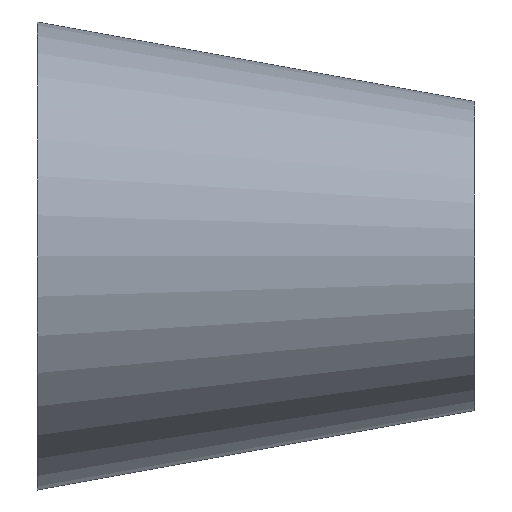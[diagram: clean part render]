
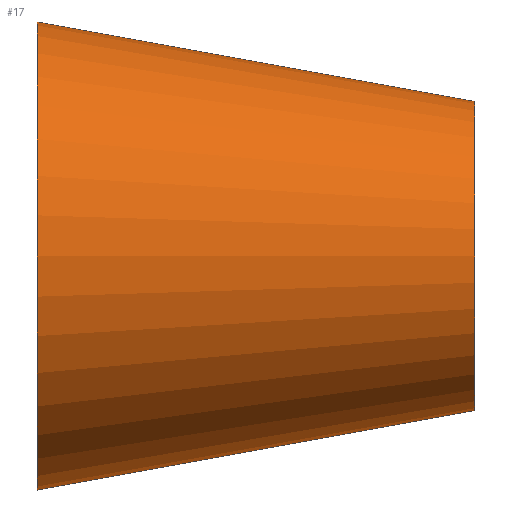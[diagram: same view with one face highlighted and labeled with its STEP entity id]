
A CAD part, front view. The second image highlights one B-rep face of the part: STEP entity #17.
In plain terms, the highlighted free-form (B-spline) face has degree [14, 1] with [15, 2] control points.
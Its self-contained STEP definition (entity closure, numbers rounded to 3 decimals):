
#17 = ADVANCED_FACE('',(#18),#31,.T.);
#18 = FACE_BOUND('',#19,.T.);
#19 = EDGE_LOOP('',(#20,#80,#102,#129));
#20 = ORIENTED_EDGE('',*,*,#21,.T.);
#21 = EDGE_CURVE('',#22,#22,#24,.T.);
#22 = VERTEX_POINT('',#23);
#23 = CARTESIAN_POINT('',(0.,26.5,0.));
#24 = SURFACE_CURVE('',#25,(#30,#68),.PCURVE_S1.);
#25 = CIRCLE('',#26,26.5);
#26 = AXIS2_PLACEMENT_3D('',#27,#28,#29);
#27 = CARTESIAN_POINT('',(0.,0.,0.));
#28 = DIRECTION('',(1.,0.,0.));
#29 = DIRECTION('',(0.,1.,0.));
#30 = PCURVE('',#31,#62);
#31 = B_SPLINE_SURFACE_WITH_KNOTS('',14,1,(
    (#32,#33)
    ,(#34,#35)
    ,(#36,#37)
    ,(#38,#39)
    ,(#40,#41)
    ,(#42,#43)
    ,(#44,#45)
    ,(#46,#47)
    ,(#48,#49)
    ,(#50,#51)
    ,(#52,#53)
    ,(#54,#55)
    ,(#56,#57)
    ,(#58,#59)
    ,(#60,#61
    )),.UNSPECIFIED.,.T.,.F.,.F.,(15,15),(2,2),(0.,6.283),(0.,1.
    ),.PIECEWISE_BEZIER_KNOTS.);
#32 = CARTESIAN_POINT('',(0.,26.5,0.));
#33 = CARTESIAN_POINT('',(49.5,8.5,0.));
#34 = CARTESIAN_POINT('',(0.,26.5,11.893));
#35 = CARTESIAN_POINT('',(49.5,8.5,7.854)
  );
#36 = CARTESIAN_POINT('',(0.,20.752,23.786));
#37 = CARTESIAN_POINT('',(49.5,4.704,15.708
    ));
#38 = CARTESIAN_POINT('',(0.,9.255,32.67));
#39 = CARTESIAN_POINT('',(49.5,-2.888,
    21.574));
#40 = CARTESIAN_POINT('',(0.,-6.27,35.534));
#41 = CARTESIAN_POINT('',(49.5,-13.141,
    23.466));
#42 = CARTESIAN_POINT('',(0.,-22.387,30.448));
#43 = CARTESIAN_POINT('',(49.5,-23.784,
    20.107));
#44 = CARTESIAN_POINT('',(0.,-34.69,17.646));
#45 = CARTESIAN_POINT('',(49.5,-31.908,
    11.653));
#46 = CARTESIAN_POINT('',(0.,-39.321,0.));
#47 = CARTESIAN_POINT('',(49.5,-34.967,
    0.));
#48 = CARTESIAN_POINT('',(0.,-34.69,-17.646));
#49 = CARTESIAN_POINT('',(49.5,-31.908,
    -11.653));
#50 = CARTESIAN_POINT('',(0.,-22.387,-30.448));
#51 = CARTESIAN_POINT('',(49.5,-23.784,
    -20.107));
#52 = CARTESIAN_POINT('',(0.,-6.27,-35.534));
#53 = CARTESIAN_POINT('',(49.5,-13.141,
    -23.466));
#54 = CARTESIAN_POINT('',(0.,9.255,-32.67));
#55 = CARTESIAN_POINT('',(49.5,-2.888,
    -21.574));
#56 = CARTESIAN_POINT('',(0.,20.752,-23.786));
#57 = CARTESIAN_POINT('',(49.5,4.704,-15.708
    ));
#58 = CARTESIAN_POINT('',(0.,26.5,-11.893));
#59 = CARTESIAN_POINT('',(49.5,8.5,-7.854));
#60 = CARTESIAN_POINT('',(0.,26.5,0.));
#61 = CARTESIAN_POINT('',(49.5,8.5,0.));
#62 = DEFINITIONAL_REPRESENTATION('',(#63),#67);
#63 = LINE('',#64,#65);
#64 = CARTESIAN_POINT('',(0.,0.));
#65 = VECTOR('',#66,1.);
#66 = DIRECTION('',(1.,0.));
#67 = ( GEOMETRIC_REPRESENTATION_CONTEXT(2) 
PARAMETRIC_REPRESENTATION_CONTEXT() REPRESENTATION_CONTEXT('2D SPACE',''
  ) );
#68 = PCURVE('',#69,#74);
#69 = PLANE('',#70);
#70 = AXIS2_PLACEMENT_3D('',#71,#72,#73);
#71 = CARTESIAN_POINT('',(0.,0.,0.));
#72 = DIRECTION('',(1.,0.,0.));
#73 = DIRECTION('',(0.,1.,0.));
#74 = DEFINITIONAL_REPRESENTATION('',(#75),#79);
#75 = CIRCLE('',#76,26.5);
#76 = AXIS2_PLACEMENT_2D('',#77,#78);
#77 = CARTESIAN_POINT('',(0.,0.));
#78 = DIRECTION('',(1.,0.));
#79 = ( GEOMETRIC_REPRESENTATION_CONTEXT(2) 
PARAMETRIC_REPRESENTATION_CONTEXT() REPRESENTATION_CONTEXT('2D SPACE',''
  ) );
#80 = ORIENTED_EDGE('',*,*,#81,.T.);
#81 = EDGE_CURVE('',#22,#82,#84,.T.);
#82 = VERTEX_POINT('',#83);
#83 = CARTESIAN_POINT('',(49.5,8.5,0.));
#84 = SEAM_CURVE('',#85,(#88,#95),.PCURVE_S1.);
#85 = B_SPLINE_CURVE_WITH_KNOTS('',1,(#86,#87),.UNSPECIFIED.,.F.,.F.,(2,
    2),(0.,1.),.PIECEWISE_BEZIER_KNOTS.);
#86 = CARTESIAN_POINT('',(0.,26.5,0.));
#87 = CARTESIAN_POINT('',(49.5,8.5,0.));
#88 = PCURVE('',#31,#89);
#89 = DEFINITIONAL_REPRESENTATION('',(#90),#94);
#90 = LINE('',#91,#92);
#91 = CARTESIAN_POINT('',(6.283,0.));
#92 = VECTOR('',#93,1.);
#93 = DIRECTION('',(0.,1.));
#94 = ( GEOMETRIC_REPRESENTATION_CONTEXT(2) 
PARAMETRIC_REPRESENTATION_CONTEXT() REPRESENTATION_CONTEXT('2D SPACE',''
  ) );
#95 = PCURVE('',#31,#96);
#96 = DEFINITIONAL_REPRESENTATION('',(#97),#101);
#97 = LINE('',#98,#99);
#98 = CARTESIAN_POINT('',(0.,0.));
#99 = VECTOR('',#100,1.);
#100 = DIRECTION('',(0.,1.));
#101 = ( GEOMETRIC_REPRESENTATION_CONTEXT(2) 
PARAMETRIC_REPRESENTATION_CONTEXT() REPRESENTATION_CONTEXT('2D SPACE',''
  ) );
#102 = ORIENTED_EDGE('',*,*,#103,.F.);
#103 = EDGE_CURVE('',#82,#82,#104,.T.);
#104 = SURFACE_CURVE('',#105,(#110,#117),.PCURVE_S1.);
#105 = CIRCLE('',#106,17.5);
#106 = AXIS2_PLACEMENT_3D('',#107,#108,#109);
#107 = CARTESIAN_POINT('',(49.5,-9.,0.));
#108 = DIRECTION('',(1.,0.,0.));
#109 = DIRECTION('',(0.,1.,0.));
#110 = PCURVE('',#31,#111);
#111 = DEFINITIONAL_REPRESENTATION('',(#112),#116);
#112 = LINE('',#113,#114);
#113 = CARTESIAN_POINT('',(0.,1.));
#114 = VECTOR('',#115,1.);
#115 = DIRECTION('',(1.,0.));
#116 = ( GEOMETRIC_REPRESENTATION_CONTEXT(2) 
PARAMETRIC_REPRESENTATION_CONTEXT() REPRESENTATION_CONTEXT('2D SPACE',''
  ) );
#117 = PCURVE('',#118,#123);
#118 = PLANE('',#119);
#119 = AXIS2_PLACEMENT_3D('',#120,#121,#122);
#120 = CARTESIAN_POINT('',(49.5,-9.,0.));
#121 = DIRECTION('',(1.,0.,0.));
#122 = DIRECTION('',(0.,1.,0.));
#123 = DEFINITIONAL_REPRESENTATION('',(#124),#128);
#124 = CIRCLE('',#125,17.5);
#125 = AXIS2_PLACEMENT_2D('',#126,#127);
#126 = CARTESIAN_POINT('',(0.,0.));
#127 = DIRECTION('',(1.,0.));
#128 = ( GEOMETRIC_REPRESENTATION_CONTEXT(2) 
PARAMETRIC_REPRESENTATION_CONTEXT() REPRESENTATION_CONTEXT('2D SPACE',''
  ) );
#129 = ORIENTED_EDGE('',*,*,#81,.F.);
